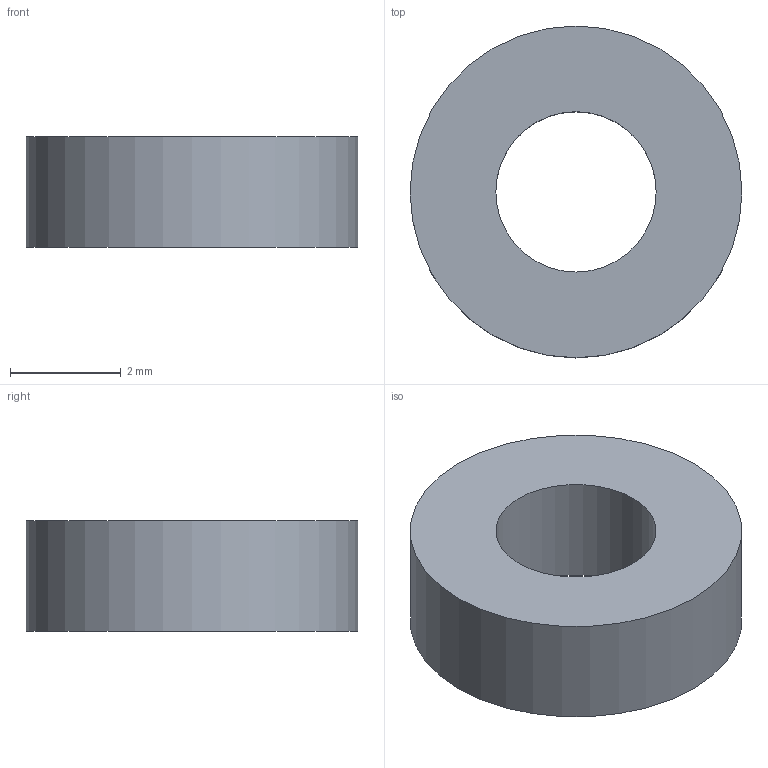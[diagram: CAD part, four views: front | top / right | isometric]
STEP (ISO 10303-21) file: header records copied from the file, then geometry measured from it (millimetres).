
FILE_DESCRIPTION(('Open CASCADE Model'),'2;1');
FILE_NAME('Open CASCADE Shape Model','2026-10-01T00:49:01',('Author'),( 'Open CASCADE'),'Open CASCADE STEP processor 7.9','Open CASCADE 7.9' ,'Unknown');
FILE_SCHEMA(('AUTOMOTIVE_DESIGN { 1 0 10303 214 1 1 1 1 }'));
Length unit declared in the file: millimetre
Products named in the file (1): Open CASCADE STEP translator 7.9 8
Bounding box: 6 x 6 x 2 mm (x, y, z)
Volume: 43.3 mm3; surface area: 99.3 mm2
Topology: 1 solids, 1 shells, 4 faces, 6 edges, 4 vertices
Faces by surface type: cylinder 2, plane 2
Full cylindrical faces by diameter (mm): 2.9 x1, 6 x1
Entity records: 192 total; most frequent: CARTESIAN_POINT 39, DIRECTION 30, ORIENTED_EDGE 12, PCURVE 12, DEFINITIONAL_REPRESENTATION 12, LINE 10, VECTOR 10, AXIS2_PLACEMENT_3D 9
